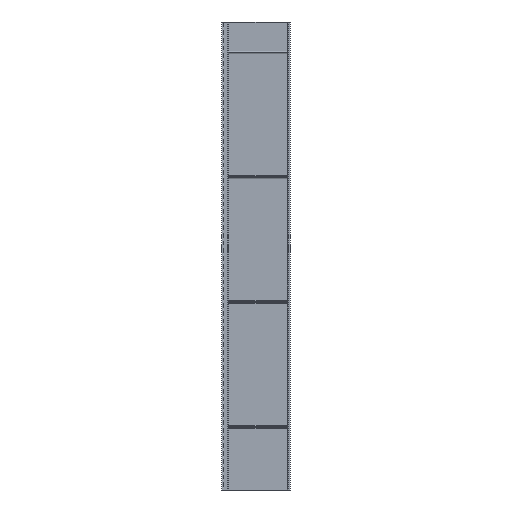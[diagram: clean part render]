
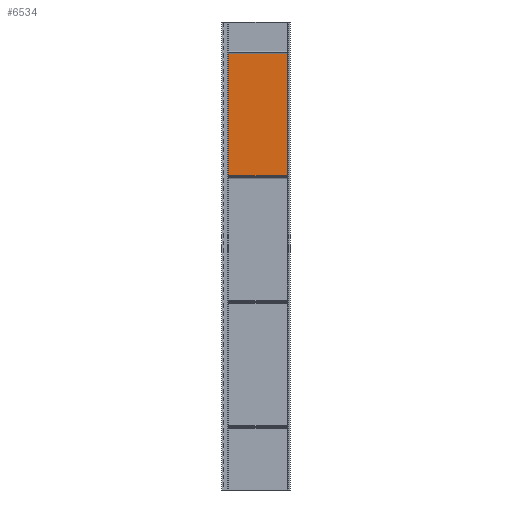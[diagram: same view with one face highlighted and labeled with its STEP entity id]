
A CAD part, front view. The second image highlights one B-rep face of the part: STEP entity #6534.
In plain terms, the highlighted planar face has unit normal (0, -1, 0).
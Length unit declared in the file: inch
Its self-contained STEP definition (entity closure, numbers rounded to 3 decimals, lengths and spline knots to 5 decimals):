
#210=PLANE('',#6910);
#384=FACE_OUTER_BOUND('',#716,.T.);
#716=EDGE_LOOP('',(#4453,#4454,#4455,#4456));
#1174=LINE('',#9578,#1820);
#1194=LINE('',#9638,#1840);
#1195=LINE('',#9640,#1841);
#1196=LINE('',#9641,#1842);
#1820=VECTOR('',#7604,0.3937);
#1840=VECTOR('',#7658,0.3937);
#1841=VECTOR('',#7659,0.3937);
#1842=VECTOR('',#7660,0.3937);
#2753=VERTEX_POINT('',#9575);
#2754=VERTEX_POINT('',#9577);
#2777=VERTEX_POINT('',#9637);
#2778=VERTEX_POINT('',#9639);
#3421=EDGE_CURVE('',#2754,#2753,#1174,.T.);
#3450=EDGE_CURVE('',#2777,#2753,#1194,.T.);
#3451=EDGE_CURVE('',#2777,#2778,#1195,.T.);
#3452=EDGE_CURVE('',#2778,#2754,#1196,.T.);
#4453=ORIENTED_EDGE('',*,*,#3421,.T.);
#4454=ORIENTED_EDGE('',*,*,#3450,.F.);
#4455=ORIENTED_EDGE('',*,*,#3451,.T.);
#4456=ORIENTED_EDGE('',*,*,#3452,.T.);
#6534=ADVANCED_FACE('',(#384),#210,.T.);
#6910=AXIS2_PLACEMENT_3D('',#9636,#7656,#7657);
#7604=DIRECTION('',(-1.,0.,0.));
#7656=DIRECTION('center_axis',(0.,-1.,0.));
#7657=DIRECTION('ref_axis',(1.,0.,0.));
#7658=DIRECTION('',(0.,0.,1.));
#7659=DIRECTION('',(1.,0.,0.));
#7660=DIRECTION('',(0.,0.,1.));
#9575=CARTESIAN_POINT('',(0.,0.,36.8838));
#9577=CARTESIAN_POINT('',(11.87126,0.,36.8838));
#9578=CARTESIAN_POINT('',(5.96781,0.,36.8838));
#9636=CARTESIAN_POINT('Origin',(0.,0.,0.));
#9637=CARTESIAN_POINT('',(0.,0.,13.40727));
#9638=CARTESIAN_POINT('',(0.,0.,0.));
#9639=CARTESIAN_POINT('',(11.87126,0.,13.40727));
#9640=CARTESIAN_POINT('',(5.96781,0.,13.40727));
#9641=CARTESIAN_POINT('',(11.87126,0.,0.));
